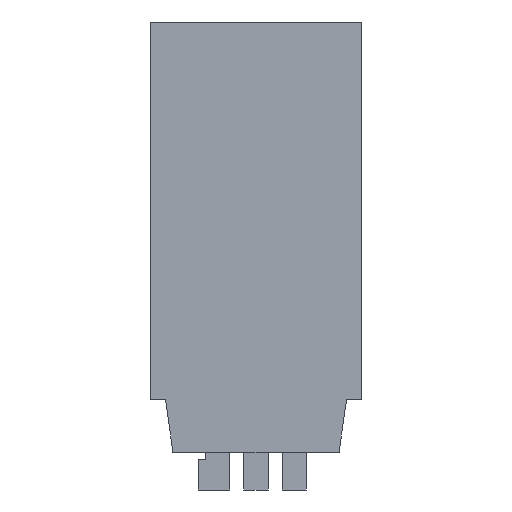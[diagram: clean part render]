
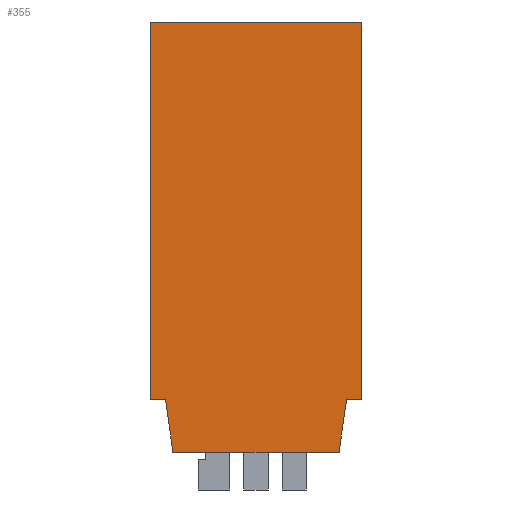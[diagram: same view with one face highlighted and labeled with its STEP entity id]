
A CAD part, front view. The second image highlights one B-rep face of the part: STEP entity #355.
In plain terms, the highlighted planar face has unit normal (0, -1, 0) as drawn and (-1, 0, 0) by its records, which use the part's own axes.
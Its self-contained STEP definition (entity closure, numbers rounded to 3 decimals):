
#9 = EDGE_CURVE ( 'NONE', #21, #282, #535, .T. ) ;
#21 = VERTEX_POINT ( 'NONE', #580 ) ;
#24 = ORIENTED_EDGE ( 'NONE', *, *, #26, .T. ) ;
#26 = EDGE_CURVE ( 'NONE', #1544, #21, #573, .T. ) ;
#35 = EDGE_CURVE ( 'NONE', #256, #403, #562, .T. ) ;
#46 = EDGE_CURVE ( 'NONE', #164, #307, #614, .T. ) ;
#62 = EDGE_CURVE ( 'NONE', #253, #1544, #650, .T. ) ;
#68 = ORIENTED_EDGE ( 'NONE', *, *, #309, .F. ) ;
#80 = ORIENTED_EDGE ( 'NONE', *, *, #46, .F. ) ;
#124 = ORIENTED_EDGE ( 'NONE', *, *, #255, .F. ) ;
#150 = ORIENTED_EDGE ( 'NONE', *, *, #35, .F. ) ;
#153 = ORIENTED_EDGE ( 'NONE', *, *, #9, .T. ) ;
#164 = VERTEX_POINT ( 'NONE', #761 ) ;
#167 = EDGE_CURVE ( 'NONE', #403, #164, #822, .T. ) ;
#253 = VERTEX_POINT ( 'NONE', #990 ) ;
#255 = EDGE_CURVE ( 'NONE', #253, #256, #989, .T. ) ;
#256 = VERTEX_POINT ( 'NONE', #985 ) ;
#282 = VERTEX_POINT ( 'NONE', #1000 ) ;
#307 = VERTEX_POINT ( 'NONE', #1021 ) ;
#309 = EDGE_CURVE ( 'NONE', #307, #282, #1084, .T. ) ;
#355 = ADVANCED_FACE ( 'NONE', ( #1144 ), #1143, .F. ) ;
#356 = EDGE_LOOP ( 'NONE', ( #357, #150, #124, #1545, #24, #153, #68, #80 ) ) ;
#357 = ORIENTED_EDGE ( 'NONE', *, *, #167, .F. ) ;
#403 = VERTEX_POINT ( 'NONE', #1191 ) ;
#532 = DIRECTION ( 'NONE',  ( 0., -0.141, 0.99 ) ) ;
#533 = VECTOR ( 'NONE', #532, 1000. ) ;
#534 = CARTESIAN_POINT ( 'NONE',  ( -4.2, -6., -25. ) ) ;
#535 = LINE ( 'NONE', #534, #533 ) ;
#559 = DIRECTION ( 'NONE',  ( 0., 0., 1. ) ) ;
#560 = VECTOR ( 'NONE', #559, 1000. ) ;
#561 = CARTESIAN_POINT ( 'NONE',  ( -4.2, 7., 0. ) ) ;
#562 = LINE ( 'NONE', #561, #560 ) ;
#570 = DIRECTION ( 'NONE',  ( 0., -1., 0. ) ) ;
#571 = VECTOR ( 'NONE', #570, 1000. ) ;
#572 = CARTESIAN_POINT ( 'NONE',  ( -4.2, -5.5, -28.5 ) ) ;
#573 = LINE ( 'NONE', #572, #571 ) ;
#580 = CARTESIAN_POINT ( 'NONE',  ( -4.2, -5.5, -28.5 ) ) ;
#611 = DIRECTION ( 'NONE',  ( 0., 0., -1. ) ) ;
#612 = VECTOR ( 'NONE', #611, 1000. ) ;
#613 = CARTESIAN_POINT ( 'NONE',  ( -4.2, -7., 0. ) ) ;
#614 = LINE ( 'NONE', #613, #612 ) ;
#647 = DIRECTION ( 'NONE',  ( 0., -0.141, -0.99 ) ) ;
#648 = VECTOR ( 'NONE', #647, 1000. ) ;
#649 = CARTESIAN_POINT ( 'NONE',  ( -4.2, 5.5, -28.5 ) ) ;
#650 = LINE ( 'NONE', #649, #648 ) ;
#761 = CARTESIAN_POINT ( 'NONE',  ( -4.2, -7., 0. ) ) ;
#819 = DIRECTION ( 'NONE',  ( 0., -1., 0. ) ) ;
#820 = VECTOR ( 'NONE', #819, 1000. ) ;
#821 = CARTESIAN_POINT ( 'NONE',  ( -4.2, 7., 0. ) ) ;
#822 = LINE ( 'NONE', #821, #820 ) ;
#985 = CARTESIAN_POINT ( 'NONE',  ( -4.2, 7., -25. ) ) ;
#986 = DIRECTION ( 'NONE',  ( 0., 1., 0. ) ) ;
#987 = VECTOR ( 'NONE', #986, 1000. ) ;
#988 = CARTESIAN_POINT ( 'NONE',  ( -4.2, 7., -25. ) ) ;
#989 = LINE ( 'NONE', #988, #987 ) ;
#990 = CARTESIAN_POINT ( 'NONE',  ( -4.2, 6., -25. ) ) ;
#1000 = CARTESIAN_POINT ( 'NONE',  ( -4.2, -6., -25. ) ) ;
#1021 = CARTESIAN_POINT ( 'NONE',  ( -4.2, -7., -25. ) ) ;
#1081 = DIRECTION ( 'NONE',  ( 0., 1., 0. ) ) ;
#1082 = VECTOR ( 'NONE', #1081, 1000. ) ;
#1083 = CARTESIAN_POINT ( 'NONE',  ( -4.2, 7., -25. ) ) ;
#1084 = LINE ( 'NONE', #1083, #1082 ) ;
#1139 = DIRECTION ( 'NONE',  ( 0., 0., -1. ) ) ;
#1140 = DIRECTION ( 'NONE',  ( 1., 0., 0. ) ) ;
#1141 = CARTESIAN_POINT ( 'NONE',  ( -4.2, -7., 0. ) ) ;
#1142 = AXIS2_PLACEMENT_3D ( 'NONE', #1141, #1140, #1139 ) ;
#1143 = PLANE ( 'NONE',  #1142 ) ;
#1144 = FACE_OUTER_BOUND ( 'NONE', #356, .T. ) ;
#1191 = CARTESIAN_POINT ( 'NONE',  ( -4.2, 7., 0. ) ) ;
#1430 = CARTESIAN_POINT ( 'NONE',  ( -4.2, 5.5, -28.5 ) ) ;
#1544 = VERTEX_POINT ( 'NONE', #1430 ) ;
#1545 = ORIENTED_EDGE ( 'NONE', *, *, #62, .T. ) ;
